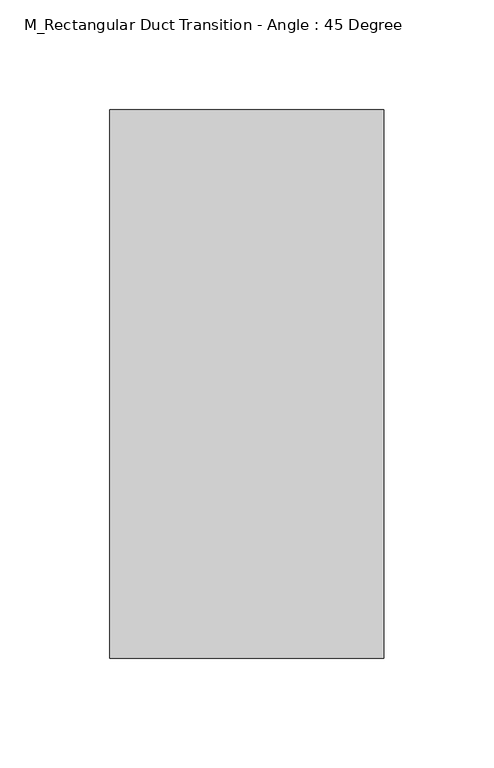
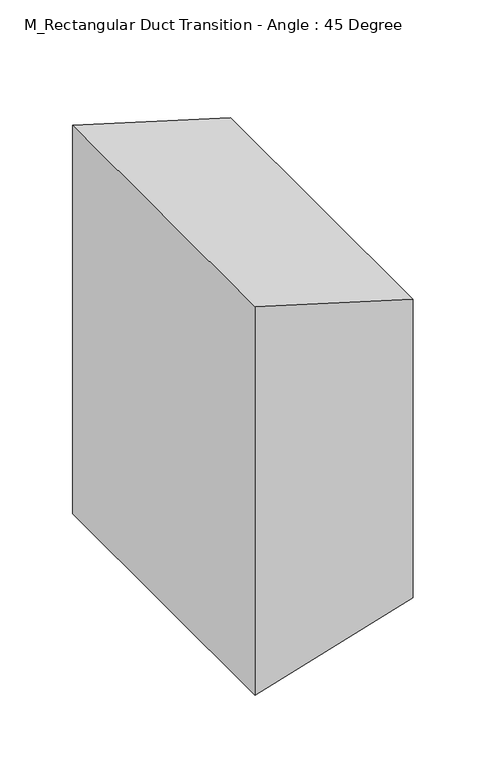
"""IFC4 building model written with IfcOpenShell, lengths in millimetres: duct fitting geometry, M_Rectangular Duct Transition - Angle : 45 Degree."""

from ifc_helpers import new_model, si_unit, frame, origin, place, context, project, spatial, polyline, outline, extrude, source, transform, mapped, element, save


def m_rectangular_duct_transition_angle_45_degree_8010bd64(model_context):
    return source(origin(), model_context, "Body", "SweptSolid", [
        extrude(outline(polyline([(-162.5, 0.0), (162.5, 0.0), (125.0, -125.0), (-125.0, -125.0), (-162.5, 0.0)])), frame((0.0, -125.0, 0.0), z_axis=(-1.611306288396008e-12, 1.0, 0.0), x_axis=(0.0, 0.0, -1.0)), (0.0, 0.0, 1.0), 250.0),
        extrude(outline(polyline([(162.5, 0.0), (-162.5, 0.0), (-125.0, 125.0), (125.0, 125.0), (162.5, 0.0)])), frame((0.0, -125.0, 0.0), z_axis=(0.0, 1.0, 0.0), x_axis=(0.0, 0.0, 1.0)), (0.0, 0.0, 1.0), 250.0),
        extrude(outline(polyline([(162.5, 0.0), (-162.5, 0.0), (-125.0, 125.0), (125.0, 125.0), (162.5, 0.0)])), frame((0.0, -125.0, 0.0), z_axis=(0.0, 1.0, 0.0), x_axis=(0.0, 0.0, 1.0)), (0.0, 0.0, 1.0), 250.0),
    ])


if __name__ == "__main__":
    model = new_model("IFC4")
    model_context = context("Model", 3, world=origin())
    ifc_project = project(units=[si_unit("LENGTHUNIT", "METRE", prefix="MILLI")], contexts=[model_context])
    site = spatial("IfcSite", under=ifc_project)
    building = spatial("IfcBuilding", under=site)
    placement = place(None, origin())
    m_rectangular_duct_transition_angle_45_degree_shape = m_rectangular_duct_transition_angle_45_degree_8010bd64(model_context)
    element("IfcDuctFitting", 1, ObjectType="M_Rectangular Duct Transition - Angle : 45 Degree", at=placement, inside=building, context=model_context, shape_type="MappedRepresentation", body=[
        mapped(m_rectangular_duct_transition_angle_45_degree_shape, transform((0.0, 0.0, 0.0), x_axis=(1.0, 0.0, 0.0), y_axis=(0.0, 1.0, 0.0), z_axis=(0.0, 0.0, 1.0))),
    ])
    save(model, "model.ifc")
